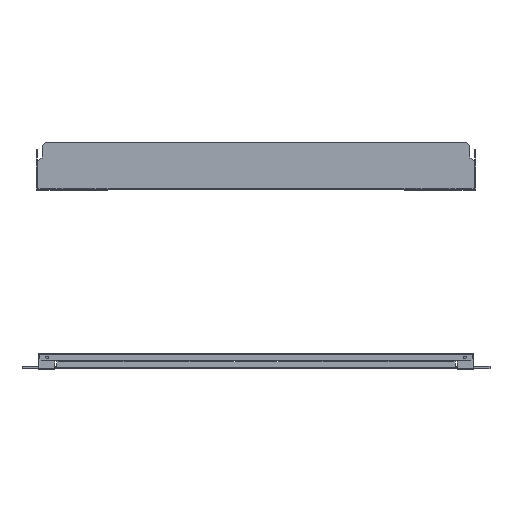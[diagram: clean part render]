
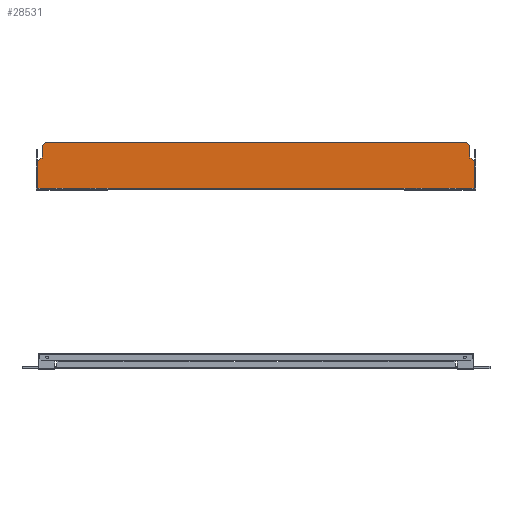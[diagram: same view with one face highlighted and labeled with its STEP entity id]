
A CAD part, front view. The second image highlights one B-rep face of the part: STEP entity #28531.
In plain terms, the highlighted planar face has unit normal (0, -1, 0).
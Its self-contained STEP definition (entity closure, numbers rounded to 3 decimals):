
#26626=CARTESIAN_POINT(' ',(347.5,-1.5,0.6));
#26627=VERTEX_POINT(' ',#26626);
#26641=CARTESIAN_POINT(' ',(347.5,-1.5,0.6));
#26646=DIRECTION(' ',(-1.,0.,0.));
#26651=VECTOR(' ',#26646,1.);
#26656=LINE('',#26641,#26651);
#26661=CARTESIAN_POINT(' ',(-347.5,-1.5,0.6));
#26662=VERTEX_POINT(' ',#26661);
#26666=EDGE_CURVE(' ',#26627,#26662,#26656,.T.);
#26806=CARTESIAN_POINT(' ',(347.5,-1.5,43.5));
#26807=VERTEX_POINT(' ',#26806);
#26821=CARTESIAN_POINT(' ',(347.5,-1.5,43.5));
#26826=DIRECTION(' ',(0.,0.,-1.));
#26831=VECTOR(' ',#26826,1.);
#26836=LINE('',#26821,#26831);
#26841=EDGE_CURVE(' ',#26807,#26627,#26836,.T.);
#28141=DIRECTION(' ',(0.,-1.,0.));
#28146=CARTESIAN_POINT(' ',(-347.5,-1.5,73.5));
#28151=DIRECTION(' ',(0.,0.,-1.));
#28156=AXIS2_PLACEMENT_3D(' ',#28146,#28141,#28151);
#28161=PLANE('NONE',#28156);
#28166=ORIENTED_EDGE(' ',*,*,#26841,.F.);
#28171=CARTESIAN_POINT(' ',(347.5,-1.5,43.5));
#28176=DIRECTION(' ',(-0.707,0.,0.707));
#28181=VECTOR(' ',#28176,1.);
#28186=LINE('',#28171,#28181);
#28191=CARTESIAN_POINT(' ',(342.5,-1.5,48.5));
#28192=VERTEX_POINT(' ',#28191);
#28196=EDGE_CURVE(' ',#26807,#28192,#28186,.T.);
#28201=ORIENTED_EDGE(' ',*,*,#28196,.T.);
#28206=CARTESIAN_POINT(' ',(340.5,-1.5,48.5));
#28211=DIRECTION(' ',(1.,0.,0.));
#28216=VECTOR(' ',#28211,1.);
#28221=LINE('',#28206,#28216);
#28226=CARTESIAN_POINT(' ',(340.5,-1.5,48.5));
#28227=VERTEX_POINT(' ',#28226);
#28231=EDGE_CURVE(' ',#28227,#28192,#28221,.T.);
#28236=ORIENTED_EDGE(' ',*,*,#28231,.F.);
#28241=CARTESIAN_POINT(' ',(340.5,-1.5,48.5));
#28246=DIRECTION(' ',(0.,0.,1.));
#28251=VECTOR(' ',#28246,1.);
#28256=LINE('',#28241,#28251);
#28261=CARTESIAN_POINT(' ',(340.5,-1.5,68.5));
#28262=VERTEX_POINT(' ',#28261);
#28266=EDGE_CURVE(' ',#28227,#28262,#28256,.T.);
#28271=ORIENTED_EDGE(' ',*,*,#28266,.T.);
#28276=CARTESIAN_POINT(' ',(340.5,-1.5,68.5));
#28281=DIRECTION(' ',(-0.707,0.,0.707));
#28286=VECTOR(' ',#28281,1.);
#28291=LINE('',#28276,#28286);
#28296=CARTESIAN_POINT(' ',(335.5,-1.5,73.5));
#28297=VERTEX_POINT(' ',#28296);
#28301=EDGE_CURVE(' ',#28262,#28297,#28291,.T.);
#28306=ORIENTED_EDGE(' ',*,*,#28301,.T.);
#28311=CARTESIAN_POINT(' ',(335.5,-1.5,73.5));
#28316=DIRECTION(' ',(-1.,0.,0.));
#28321=VECTOR(' ',#28316,1.);
#28326=LINE('',#28311,#28321);
#28331=CARTESIAN_POINT(' ',(-335.5,-1.5,73.5));
#28332=VERTEX_POINT(' ',#28331);
#28336=EDGE_CURVE(' ',#28297,#28332,#28326,.T.);
#28341=ORIENTED_EDGE(' ',*,*,#28336,.T.);
#28346=CARTESIAN_POINT(' ',(-335.5,-1.5,73.5));
#28351=DIRECTION(' ',(-0.707,0.,-0.707));
#28356=VECTOR(' ',#28351,1.);
#28361=LINE('',#28346,#28356);
#28366=CARTESIAN_POINT(' ',(-340.5,-1.5,68.5));
#28367=VERTEX_POINT(' ',#28366);
#28371=EDGE_CURVE(' ',#28332,#28367,#28361,.T.);
#28376=ORIENTED_EDGE(' ',*,*,#28371,.T.);
#28381=CARTESIAN_POINT(' ',(-340.5,-1.5,48.5));
#28386=DIRECTION(' ',(0.,0.,1.));
#28391=VECTOR(' ',#28386,1.);
#28396=LINE('',#28381,#28391);
#28401=CARTESIAN_POINT(' ',(-340.5,-1.5,48.5));
#28402=VERTEX_POINT(' ',#28401);
#28406=EDGE_CURVE(' ',#28402,#28367,#28396,.T.);
#28411=ORIENTED_EDGE(' ',*,*,#28406,.F.);
#28416=CARTESIAN_POINT(' ',(-340.5,-1.5,48.5));
#28421=DIRECTION(' ',(-1.,0.,0.));
#28426=VECTOR(' ',#28421,1.);
#28431=LINE('',#28416,#28426);
#28436=CARTESIAN_POINT(' ',(-342.5,-1.5,48.5));
#28437=VERTEX_POINT(' ',#28436);
#28441=EDGE_CURVE(' ',#28402,#28437,#28431,.T.);
#28446=ORIENTED_EDGE(' ',*,*,#28441,.T.);
#28451=CARTESIAN_POINT(' ',(-342.5,-1.5,48.5));
#28456=DIRECTION(' ',(-0.707,0.,-0.707));
#28461=VECTOR(' ',#28456,1.);
#28466=LINE('',#28451,#28461);
#28471=CARTESIAN_POINT(' ',(-347.5,-1.5,43.5));
#28472=VERTEX_POINT(' ',#28471);
#28476=EDGE_CURVE(' ',#28437,#28472,#28466,.T.);
#28481=ORIENTED_EDGE(' ',*,*,#28476,.T.);
#28486=CARTESIAN_POINT(' ',(-347.5,-1.5,0.6));
#28491=DIRECTION(' ',(0.,0.,1.));
#28496=VECTOR(' ',#28491,1.);
#28501=LINE('',#28486,#28496);
#28506=EDGE_CURVE(' ',#26662,#28472,#28501,.T.);
#28511=ORIENTED_EDGE(' ',*,*,#28506,.F.);
#28516=ORIENTED_EDGE(' ',*,*,#26666,.F.);
#28521=EDGE_LOOP(' ',(#28166,#28201,#28236,#28271,#28306,#28341,#28376,#28411,#28446,#28481,#28511,#28516));
#28526=FACE_OUTER_BOUND(' ',#28521,.T.);
#28531=ADVANCED_FACE('NONE',(#28526),#28161,.T.);
